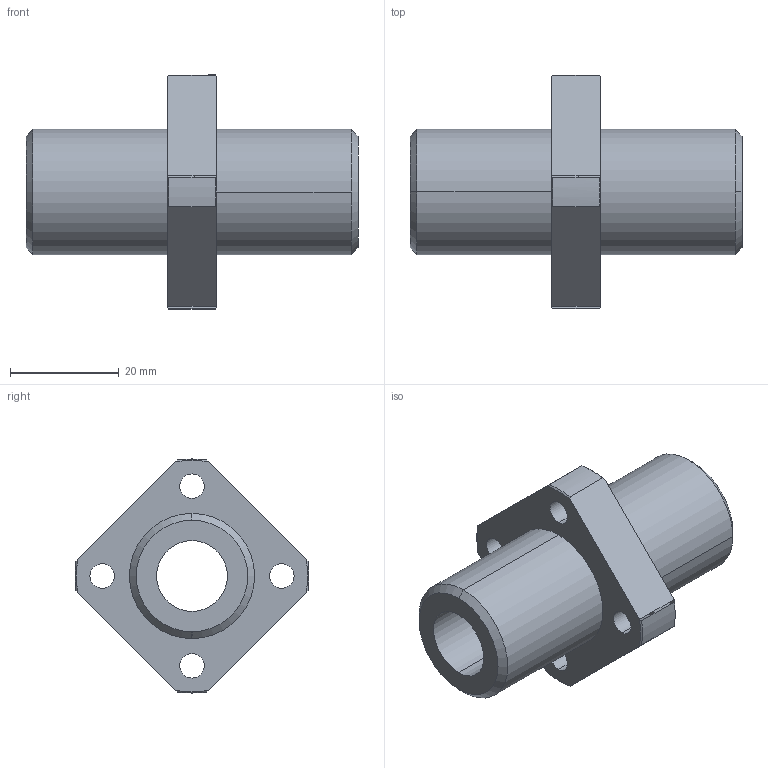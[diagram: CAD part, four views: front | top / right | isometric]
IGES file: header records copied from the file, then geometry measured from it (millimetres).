
Start section: 3D InterOp IGES (Version 21 0 1), Spatial Corp. Copyright (c) 1999-2007.
Global section: file name: CFPJ13.igs; native system: Spatial Corp.; preprocessor: 3D InterOp GENERIC/IGES 3.0; author: Noname; organization: Noname; date: 20220324.130214; units: millimetre
Bounding box: 61 x 42.96 x 43 mm (x, y, z)
Surface area: 9805 mm2 (no closed solid volume)
Topology: 0 solids, 0 shells, 53 faces, 264 edges, 264 vertices
Faces by surface type: revolution 41, extrusion 12
